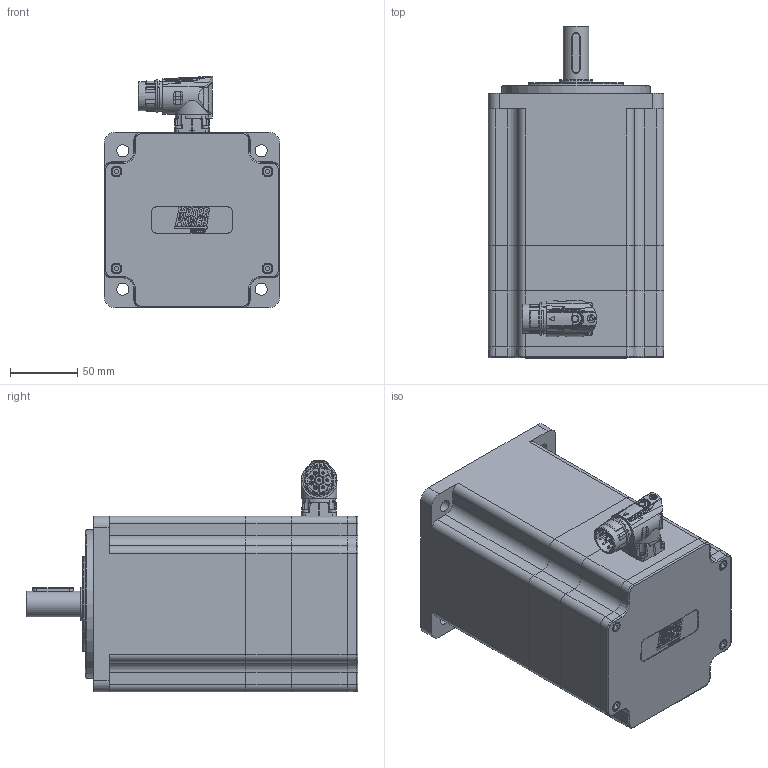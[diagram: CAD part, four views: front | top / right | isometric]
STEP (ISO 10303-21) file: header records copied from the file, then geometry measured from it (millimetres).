
FILE_DESCRIPTION(/* description */ ('Unknown'),/* implementation_level */ '2;1');
FILE_NAME(/* name */ 'TC4-130.5G.XX.X. 3.M1.1.1.C21 Q0C601',/* time_stamp */ '2026-03-05T12:30:48+01:00',/* author */ ('Unknown'),/* organization */ ('Unknown'),/* preprocessor_version */ 'ST-DEVELOPER v19.4',/* originating_system */ 'Solid Edge',/* authorisation */ 'Unknown');
FILE_SCHEMA (('AUTOMOTIVE_DESIGN {1 0 10303 214 3 1 1}'));
Products named in the file (13): Q0C601 5G M1 FRENO VUOTO; 005911000185; 005119002009; Albero TC4 130 5G FRE M1; 003155002232; 005911000432; 003251022006; 005113000500; 003103040233; 005911000252; 007117000456; 003107003290; Corpo TC4-130 5G single cable
Assembly tree (23 placements, depth 2):
  Q0C601 5G M1 FRENO VUOTO
    005911000185  x4
    005119002009
    Albero TC4 130 5G FRE M1
    003155002232
    005911000432  x6
    003251022006
    005113000500
    003103040233
    005911000252  x4
    007117000456
    003107003290
    Corpo TC4-130 5G single cable
Bounding box: 130 x 246 x 171.5 mm (x, y, z)
Volume: 1150051 mm3; surface area: 352947.9 mm2
Topology: 25 solids, 25 shells, 1642 faces, 4111 edges, 2640 vertices
Faces by surface type: plane 781, cylinder 395, bspline 187, cone 155, torus 98, sphere 26
Full cylindrical faces by diameter (mm): 1 x4, 1.4 x4, 2 x4, 2.013 x8, 2.459 x2, 2.5 x4, 2.8 x4, 3 x8, 3.2 x1, 3.242 x40, 4 x11, 4.134 x8, 4.5 x15, 4.7 x4, 4.917 x2, 5.5 x5, 5.8 x1, 5.9 x1, 6 x5, 6.4 x1, 6.8 x1, 7 x10, 8 x14, 10 x5, 16 x1, 17.4 x1, 19 x2, 19.9 x1, 20 x3, 21 x1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
Entity records: 57494 total; most frequent: CARTESIAN_POINT 14584, ORIENTED_EDGE 6696, DIRECTION 6404, EDGE_CURVE 3348, AXIS2_PLACEMENT_3D 2385, VERTEX_POINT 2337, FACE_BOUND 1991, EDGE_LOOP 1963
